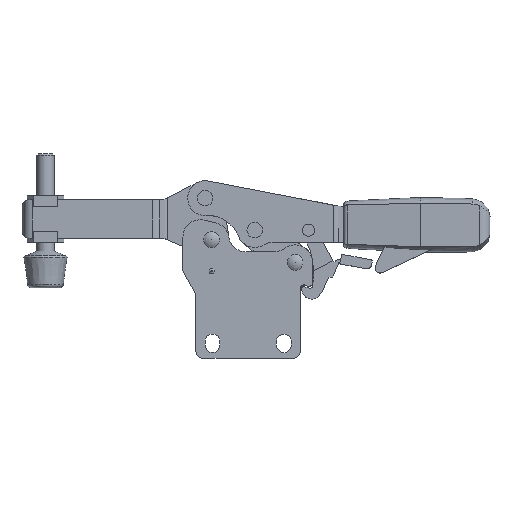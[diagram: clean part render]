
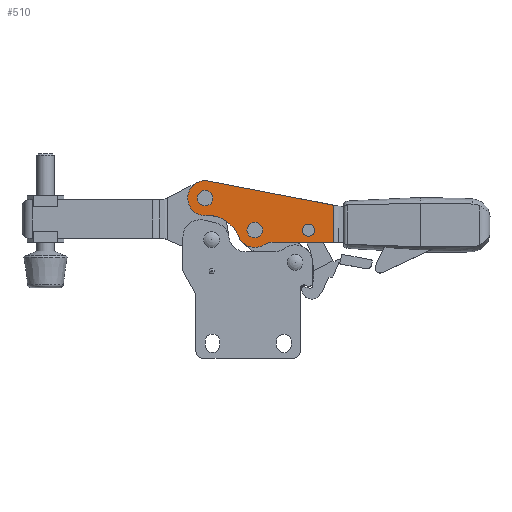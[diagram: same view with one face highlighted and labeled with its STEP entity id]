
A CAD part, top view. The second image highlights one B-rep face of the part: STEP entity #510.
In plain terms, the highlighted planar face has unit normal (0, 0, 1).
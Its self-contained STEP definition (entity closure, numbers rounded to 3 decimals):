
#510 = ADVANCED_FACE( '', ( #959, #960, #961, #962 ), #963, .T. );
#959 = FACE_OUTER_BOUND( '', #1652, .T. );
#960 = FACE_BOUND( '', #1653, .T. );
#961 = FACE_BOUND( '', #1654, .T. );
#962 = FACE_BOUND( '', #1655, .T. );
#963 = PLANE( '', #1656 );
#1652 = EDGE_LOOP( '', ( #3071, #3072, #3073, #3074, #3075, #3076, #3077 ) );
#1653 = EDGE_LOOP( '', ( #3078 ) );
#1654 = EDGE_LOOP( '', ( #3079 ) );
#1655 = EDGE_LOOP( '', ( #3080 ) );
#1656 = AXIS2_PLACEMENT_3D( '', #3081, #3082, #3083 );
#3071 = ORIENTED_EDGE( '', *, *, #4341, .F. );
#3072 = ORIENTED_EDGE( '', *, *, #4342, .T. );
#3073 = ORIENTED_EDGE( '', *, *, #4325, .T. );
#3074 = ORIENTED_EDGE( '', *, *, #4328, .F. );
#3075 = ORIENTED_EDGE( '', *, *, #4331, .T. );
#3076 = ORIENTED_EDGE( '', *, *, #4334, .F. );
#3077 = ORIENTED_EDGE( '', *, *, #4343, .T. );
#3078 = ORIENTED_EDGE( '', *, *, #4340, .F. );
#3079 = ORIENTED_EDGE( '', *, *, #4338, .F. );
#3080 = ORIENTED_EDGE( '', *, *, #4336, .F. );
#3081 = CARTESIAN_POINT( '', ( -3.783, 23.882, 7. ) );
#3082 = DIRECTION( '', ( 0., 0., 1. ) );
#3083 = DIRECTION( '', ( 1., 0., 0. ) );
#4325 = EDGE_CURVE( '', #5198, #5203, #5205, .T. );
#4328 = EDGE_CURVE( '', #5208, #5203, #5210, .T. );
#4331 = EDGE_CURVE( '', #5208, #5213, #5215, .T. );
#4334 = EDGE_CURVE( '', #5218, #5213, #5220, .T. );
#4336 = EDGE_CURVE( '', #5223, #5223, #5224, .T. );
#4338 = EDGE_CURVE( '', #5227, #5227, #5228, .T. );
#4340 = EDGE_CURVE( '', #5231, #5231, #5232, .T. );
#4341 = EDGE_CURVE( '', #5233, #5234, #5235, .F. );
#4342 = EDGE_CURVE( '', #5233, #5198, #5236, .T. );
#4343 = EDGE_CURVE( '', #5218, #5234, #5237, .T. );
#5198 = VERTEX_POINT( '', #6676 );
#5203 = VERTEX_POINT( '', #6682 );
#5205 = CIRCLE( '', #6685, 10. );
#5208 = VERTEX_POINT( '', #6688 );
#5210 = CIRCLE( '', #6691, 19. );
#5213 = VERTEX_POINT( '', #6694 );
#5215 = CIRCLE( '', #6697, 10. );
#5218 = VERTEX_POINT( '', #6700 );
#5220 = CIRCLE( '', #6703, 10. );
#5223 = VERTEX_POINT( '', #6706 );
#5224 = CIRCLE( '', #6707, 3.5 );
#5227 = VERTEX_POINT( '', #6710 );
#5228 = CIRCLE( '', #6711, 4.5 );
#5231 = VERTEX_POINT( '', #6714 );
#5232 = CIRCLE( '', #6715, 4.5 );
#5233 = VERTEX_POINT( '', #6716 );
#5234 = VERTEX_POINT( '', #6717 );
#5235 = LINE( '', #6718, #6719 );
#5236 = LINE( '', #6720, #6721 );
#5237 = LINE( '', #6722, #6723 );
#6676 = CARTESIAN_POINT( '', ( -1.894, 33.702, 7. ) );
#6682 = CARTESIAN_POINT( '', ( -3.233, 13.897, 7. ) );
#6685 = AXIS2_PLACEMENT_3D( '', #7957, #7958, #7959 );
#6688 = CARTESIAN_POINT( '', ( 15.494, 1.882, 7. ) );
#6691 = AXIS2_PLACEMENT_3D( '', #7964, #7965, #7966 );
#6694 = CARTESIAN_POINT( '', ( 30.126, -2.921, 7. ) );
#6697 = AXIS2_PLACEMENT_3D( '', #7971, #7972, #7973 );
#6700 = CARTESIAN_POINT( '', ( 35.502, -1.384, 7. ) );
#6703 = AXIS2_PLACEMENT_3D( '', #7978, #7979, #7980 );
#6706 = CARTESIAN_POINT( '', ( 59.248, 5.515, 7. ) );
#6707 = AXIS2_PLACEMENT_3D( '', #7984, #7985, #7986 );
#6710 = CARTESIAN_POINT( '', ( 29.3, 5.543, 7. ) );
#6711 = AXIS2_PLACEMENT_3D( '', #7990, #7991, #7992 );
#6714 = CARTESIAN_POINT( '', ( 0.717, 23.882, 7. ) );
#6715 = AXIS2_PLACEMENT_3D( '', #7996, #7997, #7998 );
#6716 = CARTESIAN_POINT( '', ( 70.273, 19.82, 7. ) );
#6717 = CARTESIAN_POINT( '', ( 70.166, -1.558, 7. ) );
#6718 = CARTESIAN_POINT( '', ( 69.966, -41.557, 7. ) );
#6719 = VECTOR( '', #7999, 1000. );
#6720 = CARTESIAN_POINT( '', ( 76.025, 18.713, 7. ) );
#6721 = VECTOR( '', #8000, 1000. );
#6722 = CARTESIAN_POINT( '', ( 35.502, -1.384, 7. ) );
#6723 = VECTOR( '', #8001, 1000. );
#7957 = CARTESIAN_POINT( '', ( -3.783, 23.882, 7. ) );
#7958 = DIRECTION( '', ( 0., 0., 1. ) );
#7959 = DIRECTION( '', ( 1., 0., 0. ) );
#7964 = CARTESIAN_POINT( '', ( -2.187, -5.074, 7. ) );
#7965 = DIRECTION( '', ( 0., 0., 1. ) );
#7966 = DIRECTION( '', ( 1., 0., 0. ) );
#7971 = CARTESIAN_POINT( '', ( 24.8, 5.543, 7. ) );
#7972 = DIRECTION( '', ( 0., 0., 1. ) );
#7973 = DIRECTION( '', ( 1., 0., 0. ) );
#7978 = CARTESIAN_POINT( '', ( 35.452, -11.384, 7. ) );
#7979 = DIRECTION( '', ( 0., 0., 1. ) );
#7980 = DIRECTION( '', ( 1., 0., 0. ) );
#7984 = CARTESIAN_POINT( '', ( 55.748, 5.515, 7. ) );
#7985 = DIRECTION( '', ( 0., 0., 1. ) );
#7986 = DIRECTION( '', ( 1., 0., 0. ) );
#7990 = CARTESIAN_POINT( '', ( 24.8, 5.543, 7. ) );
#7991 = DIRECTION( '', ( 0., 0., 1. ) );
#7992 = DIRECTION( '', ( 1., 0., 0. ) );
#7996 = CARTESIAN_POINT( '', ( -3.783, 23.882, 7. ) );
#7997 = DIRECTION( '', ( 0., 0., 1. ) );
#7998 = DIRECTION( '', ( 1., 0., 0. ) );
#7999 = DIRECTION( '', ( 0.005, 1., 0. ) );
#8000 = DIRECTION( '', ( -0.982, 0.189, 0. ) );
#8001 = DIRECTION( '', ( 1., -0.005, 0. ) );
